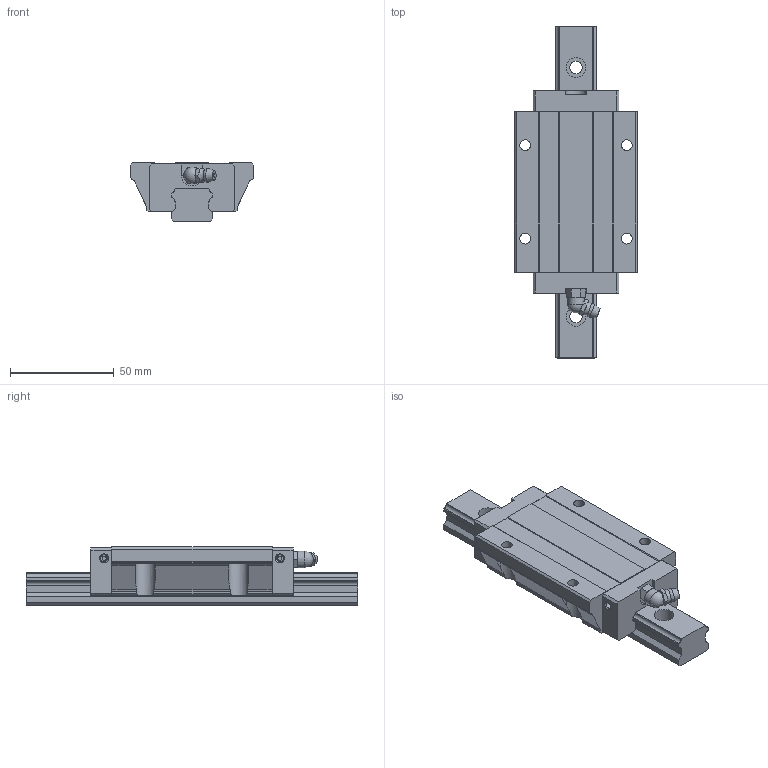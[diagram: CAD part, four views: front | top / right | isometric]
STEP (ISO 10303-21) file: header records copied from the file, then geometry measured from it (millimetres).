
FILE_DESCRIPTION(/* description */ (''),/* implementation_level */ '2;1');
FILE_NAME(/* name */ 'SME20-LEB',/* time_stamp */ '2008-10-06T10:13:09+08:00',/* author */ (''),/* organization */ (''),/* preprocessor_version */ 'ST-DEVELOPER v11',/* originating_system */ 'UGS - NX 5.0',/* authorisation */ '');
FILE_SCHEMA (('AUTOMOTIVE_DESIGN { 1 0 10303 214 1 1 1 1 }'));
Length unit declared in the file: millimetre
Products named in the file (1): jillBD1Calhi
Bounding box: 59 x 160 x 28 mm (x, y, z)
Volume: 135059.4 mm3; surface area: 33760.9 mm2
Topology: 3 solids, 3 shells, 210 faces, 562 edges, 373 vertices
Faces by surface type: plane 132, cylinder 63, torus 7, cone 5, sphere 2, bspline 1
Full cylindrical faces by diameter (mm): 2 x4, 3.3 x4, 5.2 x4, 6 x4, 6.5 x2, 8 x1, 9.5 x4
Entity records: 6749 total; most frequent: CARTESIAN_POINT 1307, DIRECTION 1074, ORIENTED_EDGE 1034, EDGE_CURVE 517, AXIS2_PLACEMENT_3D 373, VERTEX_POINT 360, LINE 328, VECTOR 328
